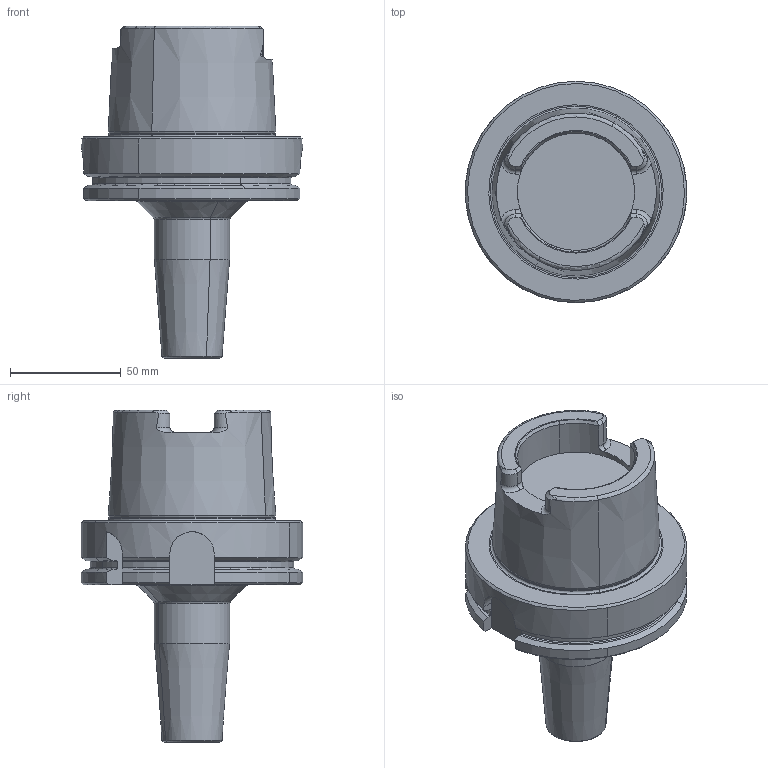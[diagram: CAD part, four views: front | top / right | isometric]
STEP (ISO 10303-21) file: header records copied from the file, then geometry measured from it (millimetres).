
FILE_DESCRIPTION(('CATIA V5 STEP Exchange','CAx-IF Rec.Pracs.--- Model Styling and Organization---1.2---2011-12-15'),'2;1');
FILE_NAME('I:\isr\design\admin8\users\tamer_s\4504217 L.stp','2014-04-03T11:45:53+00:00',('none'),('none'),'CATIA Version 5 Release 21 SP 5 (IN-10)','CATIA V5 STEP AP214','none');
FILE_SCHEMA(('AUTOMOTIVE_DESIGN { 1 0 10303 214 1 1 1 1 }'));
Length unit declared in the file: millimetre
Products named in the file (1): 60967292_0 Holder-Tool HSK A 100 SRKIN 16X100
Bounding box: 100 x 100 x 150 mm (x, y, z)
Volume: 445129.3 mm3; surface area: 45523.3 mm2
Topology: 1 solids, 1 shells, 137 faces, 350 edges, 218 vertices
Faces by surface type: plane 37, cone 35, cylinder 33, torus 32
Entity records: 4157 total; most frequent: CARTESIAN_POINT 1216, ORIENTED_EDGE 700, DIRECTION 439, EDGE_CURVE 350, AXIS2_PLACEMENT_3D 241, VERTEX_POINT 218, CIRCLE 159, EDGE_LOOP 140
